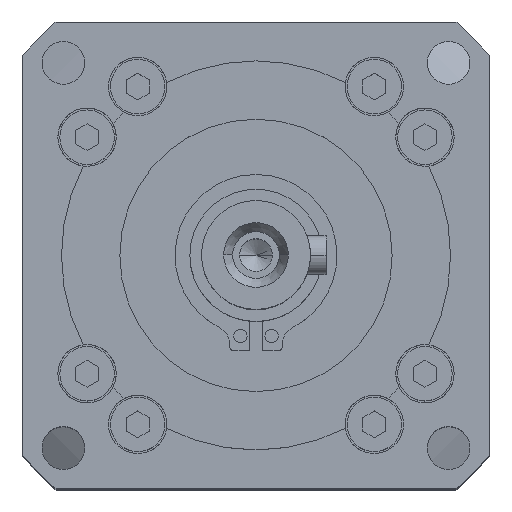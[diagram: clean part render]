
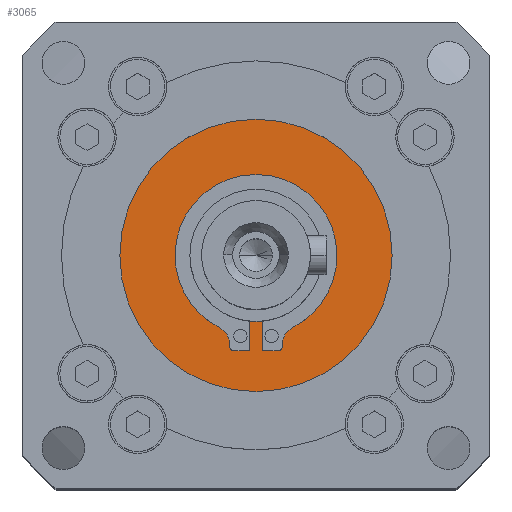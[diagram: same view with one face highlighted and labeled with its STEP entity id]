
A CAD part, top view. The second image highlights one B-rep face of the part: STEP entity #3065.
In plain terms, the highlighted planar face has unit normal (0, 0, 1).
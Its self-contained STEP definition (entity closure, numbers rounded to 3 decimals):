
#82 = VERTEX_POINT ( 'NONE', #15587 ) ;
#407 = VERTEX_POINT ( 'NONE', #16383 ) ;
#530 = CARTESIAN_POINT ( 'NONE',  ( 0., 0., -1. ) ) ;
#641 = LINE ( 'NONE', #3212, #4504 ) ;
#684 = VECTOR ( 'NONE', #14409, 1000. ) ;
#911 = CARTESIAN_POINT ( 'NONE',  ( -10.4, 0., -1. ) ) ;
#950 = EDGE_CURVE ( 'NONE', #7856, #6806, #10538, .T. ) ;
#1168 = CIRCLE ( 'NONE', #20789, 2.5 ) ;
#1376 = EDGE_CURVE ( 'NONE', #10893, #10756, #14421, .T. ) ;
#1405 = DIRECTION ( 'NONE',  ( 1., 0., 0. ) ) ;
#1543 = DIRECTION ( 'NONE',  ( -1., 0., 0. ) ) ;
#1623 = DIRECTION ( 'NONE',  ( 0., 0., -1. ) ) ;
#1692 = CARTESIAN_POINT ( 'NONE',  ( -5.85, -11.497, -1. ) ) ;
#1959 = DIRECTION ( 'NONE',  ( 0., 0., 1. ) ) ;
#1978 = CARTESIAN_POINT ( 'NONE',  ( 0., 0., -1. ) ) ;
#2163 = ORIENTED_EDGE ( 'NONE', *, *, #950, .F. ) ;
#2199 = DIRECTION ( 'NONE',  ( -1., 0., 0. ) ) ;
#2341 = DIRECTION ( 'NONE',  ( 0., 1., 0. ) ) ;
#2631 = VECTOR ( 'NONE', #4288, 1000. ) ;
#2689 = CARTESIAN_POINT ( 'NONE',  ( 5.85, -11.497, -1. ) ) ;
#2854 = VERTEX_POINT ( 'NONE', #5916 ) ;
#2925 = VECTOR ( 'NONE', #19232, 1000. ) ;
#3065 = ADVANCED_FACE ( 'NONE', ( #7878, #20992 ), #8148, .F. ) ;
#3193 = CIRCLE ( 'NONE', #20761, 0.5 ) ;
#3212 = CARTESIAN_POINT ( 'NONE',  ( 3.35, -11.757, -1. ) ) ;
#3261 = CARTESIAN_POINT ( 'NONE',  ( -4.716, -9.269, -1. ) ) ;
#3378 = ORIENTED_EDGE ( 'NONE', *, *, #12842, .F. ) ;
#3618 = ORIENTED_EDGE ( 'NONE', *, *, #15747, .F. ) ;
#3641 = DIRECTION ( 'NONE',  ( -1., 0., 0. ) ) ;
#3687 = ORIENTED_EDGE ( 'NONE', *, *, #18259, .T. ) ;
#3694 = CIRCLE ( 'NONE', #14521, 17.5 ) ;
#4061 = CARTESIAN_POINT ( 'NONE',  ( -3.35, -11.497, -1. ) ) ;
#4120 = AXIS2_PLACEMENT_3D ( 'NONE', #6424, #19701, #9813 ) ;
#4190 = VERTEX_POINT ( 'NONE', #8434 ) ;
#4215 = ORIENTED_EDGE ( 'NONE', *, *, #6718, .F. ) ;
#4288 = DIRECTION ( 'NONE',  ( 1., 0., 0. ) ) ;
#4326 = DIRECTION ( 'NONE',  ( 1., 0., 0. ) ) ;
#4446 = CARTESIAN_POINT ( 'NONE',  ( 3.35, -11.497, -1. ) ) ;
#4504 = VECTOR ( 'NONE', #13078, 1000. ) ;
#4702 = DIRECTION ( 'NONE',  ( 0., 0., 1. ) ) ;
#4846 = VERTEX_POINT ( 'NONE', #11329 ) ;
#5030 = CARTESIAN_POINT ( 'NONE',  ( -0.85, -8.457, -1. ) ) ;
#5103 = EDGE_CURVE ( 'NONE', #10300, #12171, #13247, .T. ) ;
#5335 = CARTESIAN_POINT ( 'NONE',  ( 3.35, -11.757, -1. ) ) ;
#5380 = EDGE_CURVE ( 'NONE', #407, #4190, #3694, .T. ) ;
#5646 = CARTESIAN_POINT ( 'NONE',  ( -0.85, -12.257, -1. ) ) ;
#5916 = CARTESIAN_POINT ( 'NONE',  ( -2.85, -12.257, -1. ) ) ;
#6023 = CARTESIAN_POINT ( 'NONE',  ( 0.85, -12.257, -1. ) ) ;
#6053 = LINE ( 'NONE', #14611, #18745 ) ;
#6193 = EDGE_CURVE ( 'NONE', #12171, #82, #20161, .T. ) ;
#6424 = CARTESIAN_POINT ( 'NONE',  ( 0., 0., -1. ) ) ;
#6718 = EDGE_CURVE ( 'NONE', #16431, #10893, #11122, .T. ) ;
#6791 = AXIS2_PLACEMENT_3D ( 'NONE', #19093, #9199, #20709 ) ;
#6806 = VERTEX_POINT ( 'NONE', #5030 ) ;
#6937 = DIRECTION ( 'NONE',  ( 0., 0., 1. ) ) ;
#6984 = VERTEX_POINT ( 'NONE', #4446 ) ;
#7537 = CARTESIAN_POINT ( 'NONE',  ( 0.85, -8.457, -1. ) ) ;
#7718 = VERTEX_POINT ( 'NONE', #10755 ) ;
#7856 = VERTEX_POINT ( 'NONE', #14372 ) ;
#7878 = FACE_OUTER_BOUND ( 'NONE', #14314, .T. ) ;
#8148 = PLANE ( 'NONE',  #4120 ) ;
#8434 = CARTESIAN_POINT ( 'NONE',  ( -17.5, 0., -1. ) ) ;
#8777 = ORIENTED_EDGE ( 'NONE', *, *, #9509, .F. ) ;
#9109 = DIRECTION ( 'NONE',  ( 0., 0., 1. ) ) ;
#9199 = DIRECTION ( 'NONE',  ( 0., 0., 1. ) ) ;
#9402 = VERTEX_POINT ( 'NONE', #13137 ) ;
#9488 = CARTESIAN_POINT ( 'NONE',  ( -3.35, -11.757, -1. ) ) ;
#9509 = EDGE_CURVE ( 'NONE', #82, #9572, #12363, .T. ) ;
#9572 = VERTEX_POINT ( 'NONE', #5335 ) ;
#9651 = CARTESIAN_POINT ( 'NONE',  ( 0., 0., -1. ) ) ;
#9772 = AXIS2_PLACEMENT_3D ( 'NONE', #1978, #13514, #3641 ) ;
#9813 = DIRECTION ( 'NONE',  ( 0., -1., 0. ) ) ;
#10010 = VECTOR ( 'NONE', #2341, 1000. ) ;
#10300 = VERTEX_POINT ( 'NONE', #7537 ) ;
#10538 = LINE ( 'NONE', #5646, #10010 ) ;
#10755 = CARTESIAN_POINT ( 'NONE',  ( 4.716, -9.269, -1. ) ) ;
#10756 = VERTEX_POINT ( 'NONE', #4061 ) ;
#10893 = VERTEX_POINT ( 'NONE', #3261 ) ;
#10991 = AXIS2_PLACEMENT_3D ( 'NONE', #1692, #1623, #1543 ) ;
#11122 = CIRCLE ( 'NONE', #19503, 10.4 ) ;
#11307 = DIRECTION ( 'NONE',  ( -1., 0., 0. ) ) ;
#11325 = EDGE_CURVE ( 'NONE', #10756, #9402, #15415, .T. ) ;
#11329 = CARTESIAN_POINT ( 'NONE',  ( 10.4, 0., -1. ) ) ;
#11509 = EDGE_LOOP ( 'NONE', ( #2163, #13055, #3618, #12080, #20504, #4215, #19082, #20066, #20692, #3378, #8777, #20172, #13737, #16611 ) ) ;
#11840 = CARTESIAN_POINT ( 'NONE',  ( 2.85, -11.757, -1. ) ) ;
#12014 = CIRCLE ( 'NONE', #12749, 10.4 ) ;
#12080 = ORIENTED_EDGE ( 'NONE', *, *, #11325, .F. ) ;
#12082 = DIRECTION ( 'NONE',  ( 0., 0., 1. ) ) ;
#12171 = VERTEX_POINT ( 'NONE', #16189 ) ;
#12222 = CIRCLE ( 'NONE', #6791, 8.5 ) ;
#12363 = CIRCLE ( 'NONE', #20561, 0.5 ) ;
#12591 = EDGE_CURVE ( 'NONE', #4846, #16431, #12014, .T. ) ;
#12749 = AXIS2_PLACEMENT_3D ( 'NONE', #19006, #9109, #20616 ) ;
#12842 = EDGE_CURVE ( 'NONE', #9572, #6984, #641, .T. ) ;
#13055 = ORIENTED_EDGE ( 'NONE', *, *, #19070, .F. ) ;
#13078 = DIRECTION ( 'NONE',  ( 0., 1., 0. ) ) ;
#13137 = CARTESIAN_POINT ( 'NONE',  ( -3.35, -11.757, -1. ) ) ;
#13247 = LINE ( 'NONE', #6023, #2925 ) ;
#13492 = DIRECTION ( 'NONE',  ( 1., 0., 0. ) ) ;
#13514 = DIRECTION ( 'NONE',  ( 0., 0., 1. ) ) ;
#13541 = CIRCLE ( 'NONE', #17408, 10.4 ) ;
#13737 = ORIENTED_EDGE ( 'NONE', *, *, #5103, .F. ) ;
#14014 = ORIENTED_EDGE ( 'NONE', *, *, #5380, .T. ) ;
#14165 = CARTESIAN_POINT ( 'NONE',  ( 0.85, -12.257, -1. ) ) ;
#14220 = DIRECTION ( 'NONE',  ( 0., 0., -1. ) ) ;
#14314 = EDGE_LOOP ( 'NONE', ( #14014, #3687 ) ) ;
#14372 = CARTESIAN_POINT ( 'NONE',  ( -0.85, -12.257, -1. ) ) ;
#14409 = DIRECTION ( 'NONE',  ( 0., -1., 0. ) ) ;
#14421 = CIRCLE ( 'NONE', #10991, 2.5 ) ;
#14521 = AXIS2_PLACEMENT_3D ( 'NONE', #530, #12082, #2199 ) ;
#14595 = CARTESIAN_POINT ( 'NONE',  ( 0., 0., -1. ) ) ;
#14611 = CARTESIAN_POINT ( 'NONE',  ( -0.85, -12.257, -1. ) ) ;
#15415 = LINE ( 'NONE', #9488, #684 ) ;
#15587 = CARTESIAN_POINT ( 'NONE',  ( 2.85, -12.257, -1. ) ) ;
#15747 = EDGE_CURVE ( 'NONE', #9402, #2854, #3193, .T. ) ;
#15897 = CIRCLE ( 'NONE', #9772, 17.5 ) ;
#16189 = CARTESIAN_POINT ( 'NONE',  ( 0.85, -12.257, -1. ) ) ;
#16238 = DIRECTION ( 'NONE',  ( -1., 0., 0. ) ) ;
#16383 = CARTESIAN_POINT ( 'NONE',  ( 17.5, 0., -1. ) ) ;
#16431 = VERTEX_POINT ( 'NONE', #911 ) ;
#16611 = ORIENTED_EDGE ( 'NONE', *, *, #20943, .F. ) ;
#16831 = CARTESIAN_POINT ( 'NONE',  ( -2.85, -11.757, -1. ) ) ;
#17408 = AXIS2_PLACEMENT_3D ( 'NONE', #14595, #4702, #16238 ) ;
#18259 = EDGE_CURVE ( 'NONE', #4190, #407, #15897, .T. ) ;
#18395 = EDGE_CURVE ( 'NONE', #6984, #7718, #1168, .T. ) ;
#18501 = DIRECTION ( 'NONE',  ( -1., 0., 0. ) ) ;
#18745 = VECTOR ( 'NONE', #1405, 1000. ) ;
#19006 = CARTESIAN_POINT ( 'NONE',  ( 0., 0., -1. ) ) ;
#19070 = EDGE_CURVE ( 'NONE', #2854, #7856, #6053, .T. ) ;
#19082 = ORIENTED_EDGE ( 'NONE', *, *, #12591, .F. ) ;
#19093 = CARTESIAN_POINT ( 'NONE',  ( 0., 0., -1. ) ) ;
#19232 = DIRECTION ( 'NONE',  ( 0., -1., 0. ) ) ;
#19477 = EDGE_CURVE ( 'NONE', #7718, #4846, #13541, .T. ) ;
#19503 = AXIS2_PLACEMENT_3D ( 'NONE', #9651, #21143, #11307 ) ;
#19701 = DIRECTION ( 'NONE',  ( 0., 0., -1. ) ) ;
#20066 = ORIENTED_EDGE ( 'NONE', *, *, #19477, .F. ) ;
#20161 = LINE ( 'NONE', #14165, #2631 ) ;
#20172 = ORIENTED_EDGE ( 'NONE', *, *, #6193, .F. ) ;
#20504 = ORIENTED_EDGE ( 'NONE', *, *, #1376, .F. ) ;
#20561 = AXIS2_PLACEMENT_3D ( 'NONE', #11840, #1959, #13492 ) ;
#20616 = DIRECTION ( 'NONE',  ( -1., 0., 0. ) ) ;
#20692 = ORIENTED_EDGE ( 'NONE', *, *, #18395, .F. ) ;
#20709 = DIRECTION ( 'NONE',  ( -1., 0., 0. ) ) ;
#20761 = AXIS2_PLACEMENT_3D ( 'NONE', #16831, #6937, #18501 ) ;
#20789 = AXIS2_PLACEMENT_3D ( 'NONE', #2689, #14220, #4326 ) ;
#20943 = EDGE_CURVE ( 'NONE', #6806, #10300, #12222, .T. ) ;
#20992 = FACE_BOUND ( 'NONE', #11509, .T. ) ;
#21143 = DIRECTION ( 'NONE',  ( 0., 0., 1. ) ) ;
